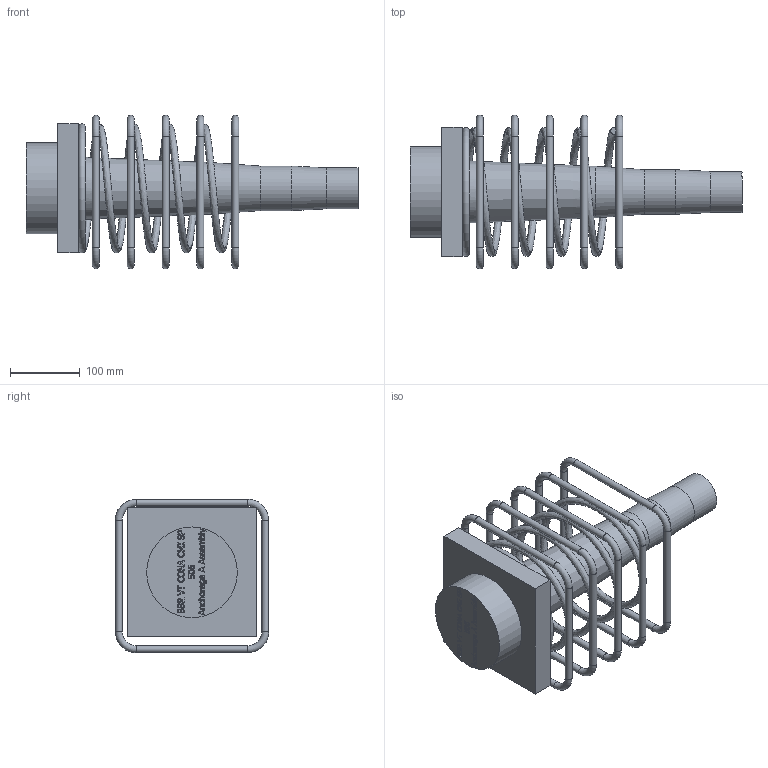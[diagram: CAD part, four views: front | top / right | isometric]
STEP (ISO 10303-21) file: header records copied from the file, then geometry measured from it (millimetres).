
FILE_DESCRIPTION(/* description */ (''),/* implementation_level */ '2;1');
FILE_NAME(/* name */ 'Z:\04 Publications\05 Give-out\BBR\6_3D_Models\BBR VT CONA CMI\BBR VT CONA CMI SP\00506\BBR VT CONA CMI SP 506_Anchorage A Assembly_CS-34,28.stp',/* time_stamp */ '2017-05-05T13:46:59+02:00',/* author */ ('IP'),/* organization */ (''),/* preprocessor_version */ 'ST-DEVELOPER v16.1',/* originating_system */ 'Autodesk Inventor 2016',/* authorisation */ '');
FILE_SCHEMA (('AUTOMOTIVE_DESIGN { 1 0 10303 214 3 1 1 }'));
Length unit declared in the file: millimetre
Products named in the file (1): BBR VT CONA CMI SP 506_Anchorage A Assembly_CS-34,28
Bounding box: 475.97 x 220 x 220 mm (x, y, z)
Volume: 3826497.1 mm3; surface area: 408425.5 mm2
Topology: 7 solids, 7 shells, 646 faces, 1719 edges, 1132 vertices
Faces by surface type: plane 304, bspline 295, torus 23, cylinder 23, cone 1
Full cylindrical faces by diameter (mm): 10 x20, 59 x1, 64 x1, 130 x1
Entity records: 23856 total; most frequent: CARTESIAN_POINT 9268, ORIENTED_EDGE 3346, DIRECTION 1841, EDGE_CURVE 1672, VERTEX_POINT 1131, LINE 1029, VECTOR 1029, EDGE_LOOP 748
